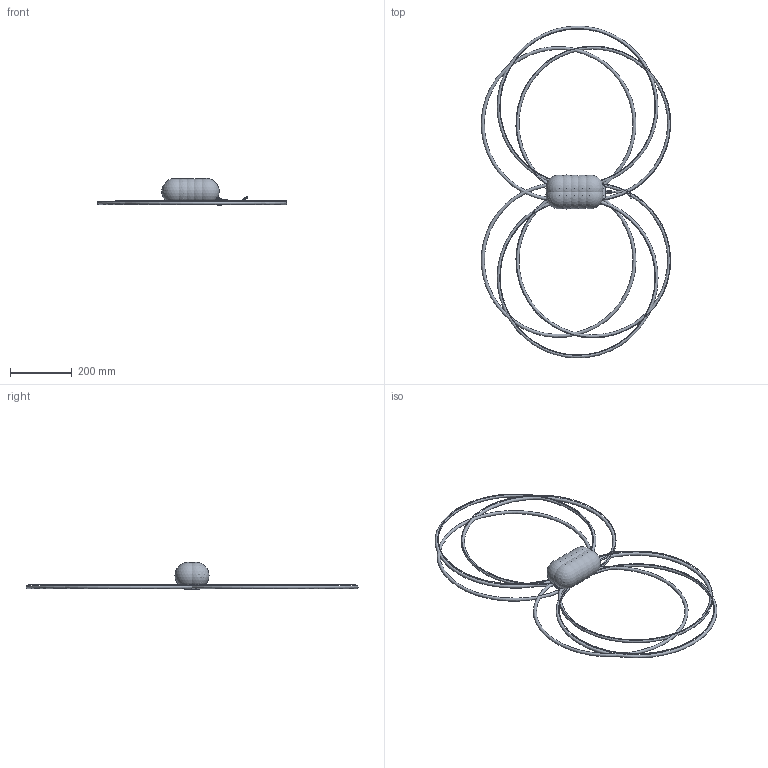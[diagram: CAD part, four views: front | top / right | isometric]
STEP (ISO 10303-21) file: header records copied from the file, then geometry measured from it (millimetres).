
FILE_DESCRIPTION((''),'2;1');
FILE_NAME('HF_ASM','2014-06-03T',('user'),(''),'PRO/ENGINEER BY PARAMETRIC TECHNOLOGY CORPORATION, 2008090','PRO/ENGINEER BY PARAMETRIC TECHNOLOGY CORPORATION, 2008090','');
FILE_SCHEMA(('CONFIG_CONTROL_DESIGN'));
Products named in the file (1): HF_ASM
Bounding box: 611.56 x 1072.45 x 88.12 mm (x, y, z)
Topology: 0 solids, 0 shells, 2167 faces, 12741 edges, 12503 vertices
Faces by surface type: bspline 1892, torus 177, sphere 98
Entity records: 209000 total; most frequent: CARTESIAN_POINT 99940, DIRECTION 17659, TRIMMED_CURVE 14409, DEFINITIONAL_REPRESENTATION 12386, PCURVE 12386, COMPOSITE_CURVE_SEGMENT 12386, VECTOR 11709, LINE 11709
